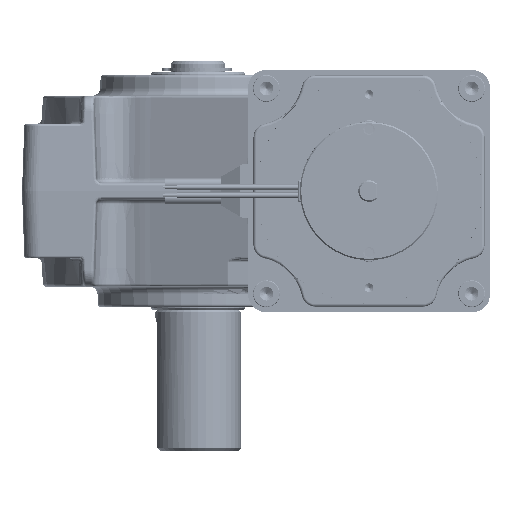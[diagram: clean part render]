
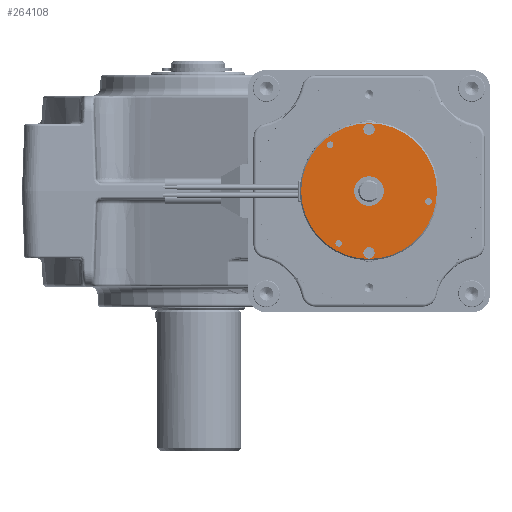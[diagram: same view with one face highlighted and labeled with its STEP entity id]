
A CAD part, left-side view. The second image highlights one B-rep face of the part: STEP entity #264108.
In plain terms, the highlighted planar face has unit normal (-1, 0, 0).
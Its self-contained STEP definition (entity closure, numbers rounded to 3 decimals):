
#209 = EDGE_LOOP ( 'NONE', ( #30297, #177760 ) ) ;
#939 = VERTEX_POINT ( 'NONE', #222678 ) ;
#4736 = EDGE_CURVE ( 'NONE', #201803, #11214, #54795, .T. ) ;
#5601 = AXIS2_PLACEMENT_3D ( 'NONE', #128049, #180443, #177367 ) ;
#6062 = DIRECTION ( 'NONE',  ( 0., -0.5, 0.866 ) ) ;
#11214 = VERTEX_POINT ( 'NONE', #83652 ) ;
#12587 = ORIENTED_EDGE ( 'NONE', *, *, #285040, .T. ) ;
#14232 = DIRECTION ( 'NONE',  ( 0., -0.5, 0.866 ) ) ;
#18291 = EDGE_LOOP ( 'NONE', ( #246786, #198364 ) ) ;
#21809 = ORIENTED_EDGE ( 'NONE', *, *, #243792, .T. ) ;
#30297 = ORIENTED_EDGE ( 'NONE', *, *, #230292, .T. ) ;
#31659 = CARTESIAN_POINT ( 'NONE',  ( -340.959, -28.091, 37.402 ) ) ;
#32804 = CARTESIAN_POINT ( 'NONE',  ( -340.959, -40.716, 59.269 ) ) ;
#32810 = CIRCLE ( 'NONE', #119446, 2.1 ) ;
#34466 = EDGE_LOOP ( 'NONE', ( #257857, #251469 ) ) ;
#34608 = AXIS2_PLACEMENT_3D ( 'NONE', #125094, #290637, #191922 ) ;
#34918 = ORIENTED_EDGE ( 'NONE', *, *, #231136, .T. ) ;
#42314 = CIRCLE ( 'NONE', #205056, 1.23 ) ;
#44274 = CARTESIAN_POINT ( 'NONE',  ( -340.959, -28.091, 60.402 ) ) ;
#46368 = DIRECTION ( 'NONE',  ( 0., -0.5, 0.866 ) ) ;
#47332 = AXIS2_PLACEMENT_3D ( 'NONE', #74561, #171707, #50677 ) ;
#49225 = CIRCLE ( 'NONE', #171264, 1.23 ) ;
#49955 = CIRCLE ( 'NONE', #121193, 1.23 ) ;
#50141 = CARTESIAN_POINT ( 'NONE',  ( -340.959, -14.243, 55.702 ) ) ;
#50656 = PLANE ( 'NONE',  #115286 ) ;
#50677 = DIRECTION ( 'NONE',  ( 0., -0.5, 0.866 ) ) ;
#54795 = CIRCLE ( 'NONE', #293731, 2.1 ) ;
#61772 = CIRCLE ( 'NONE', #255051, 1.23 ) ;
#61942 = DIRECTION ( 'NONE',  ( 0., -0.5, 0.866 ) ) ;
#62315 = VERTEX_POINT ( 'NONE', #172359 ) ;
#64759 = DIRECTION ( 'NONE',  ( 1., 0., 0. ) ) ;
#69551 = AXIS2_PLACEMENT_3D ( 'NONE', #129483, #154947, #177277 ) ;
#69770 = FACE_OUTER_BOUND ( 'NONE', #195970, .T. ) ;
#72084 = CIRCLE ( 'NONE', #128134, 25.25 ) ;
#72584 = DIRECTION ( 'NONE',  ( 1., 0., 0. ) ) ;
#72908 = FACE_BOUND ( 'NONE', #176402, .T. ) ;
#74561 = CARTESIAN_POINT ( 'NONE',  ( -340.959, -28.091, 37.402 ) ) ;
#75569 = DIRECTION ( 'NONE',  ( 1., 0., 0. ) ) ;
#81309 = EDGE_LOOP ( 'NONE', ( #12587, #34918 ) ) ;
#81610 = EDGE_CURVE ( 'NONE', #160580, #273089, #242523, .T. ) ;
#83652 = CARTESIAN_POINT ( 'NONE',  ( -340.959, -27.041, 58.583 ) ) ;
#83969 = CARTESIAN_POINT ( 'NONE',  ( -340.959, -50.249, 33.495 ) ) ;
#84310 = CARTESIAN_POINT ( 'NONE',  ( -340.959, -13.628, 54.638 ) ) ;
#86323 = VERTEX_POINT ( 'NONE', #268532 ) ;
#86517 = VERTEX_POINT ( 'NONE', #161563 ) ;
#93766 = FACE_BOUND ( 'NONE', #280735, .T. ) ;
#93781 = VERTEX_POINT ( 'NONE', #225920 ) ;
#94993 = AXIS2_PLACEMENT_3D ( 'NONE', #31659, #305444, #158930 ) ;
#99610 = CIRCLE ( 'NONE', #308265, 5.5 ) ;
#104797 = CARTESIAN_POINT ( 'NONE',  ( -340.959, -30.841, 42.165 ) ) ;
#107801 = CARTESIAN_POINT ( 'NONE',  ( -340.959, -17.455, 18.981 ) ) ;
#114552 = VERTEX_POINT ( 'NONE', #32804 ) ;
#115286 = AXIS2_PLACEMENT_3D ( 'NONE', #104797, #249549, #6062 ) ;
#115831 = CARTESIAN_POINT ( 'NONE',  ( -340.959, -28.091, 37.402 ) ) ;
#119244 = FACE_BOUND ( 'NONE', #81309, .T. ) ;
#119446 = AXIS2_PLACEMENT_3D ( 'NONE', #152623, #222538, #315165 ) ;
#119964 = CARTESIAN_POINT ( 'NONE',  ( -340.959, -50.864, 34.559 ) ) ;
#121193 = AXIS2_PLACEMENT_3D ( 'NONE', #83969, #64759, #181133 ) ;
#123126 = VERTEX_POINT ( 'NONE', #50141 ) ;
#124627 = ORIENTED_EDGE ( 'NONE', *, *, #288849, .T. ) ;
#125094 = CARTESIAN_POINT ( 'NONE',  ( -340.959, -28.091, 14.402 ) ) ;
#125659 = EDGE_CURVE ( 'NONE', #11214, #201803, #212809, .T. ) ;
#128049 = CARTESIAN_POINT ( 'NONE',  ( -340.959, -16.841, 17.916 ) ) ;
#128134 = AXIS2_PLACEMENT_3D ( 'NONE', #232220, #280153, #14232 ) ;
#129169 = EDGE_CURVE ( 'NONE', #123126, #143378, #61772, .T. ) ;
#129483 = CARTESIAN_POINT ( 'NONE',  ( -340.959, -16.841, 17.916 ) ) ;
#141979 = CARTESIAN_POINT ( 'NONE',  ( -340.959, -13.013, 53.573 ) ) ;
#142924 = CIRCLE ( 'NONE', #5601, 1.23 ) ;
#143378 = VERTEX_POINT ( 'NONE', #141979 ) ;
#152623 = CARTESIAN_POINT ( 'NONE',  ( -340.959, -28.091, 14.402 ) ) ;
#154947 = DIRECTION ( 'NONE',  ( 1., 0., 0. ) ) ;
#155532 = EDGE_CURVE ( 'NONE', #114552, #86323, #72084, .T. ) ;
#157592 = DIRECTION ( 'NONE',  ( 1., 0., 0. ) ) ;
#157772 = CARTESIAN_POINT ( 'NONE',  ( -340.959, -16.226, 16.851 ) ) ;
#158930 = DIRECTION ( 'NONE',  ( 0., -0.5, 0.866 ) ) ;
#160580 = VERTEX_POINT ( 'NONE', #107801 ) ;
#161563 = CARTESIAN_POINT ( 'NONE',  ( -340.959, -29.141, 16.22 ) ) ;
#163171 = EDGE_CURVE ( 'NONE', #291364, #93781, #99610, .T. ) ;
#167410 = CARTESIAN_POINT ( 'NONE',  ( -340.959, -50.249, 33.495 ) ) ;
#171264 = AXIS2_PLACEMENT_3D ( 'NONE', #167410, #242105, #46368 ) ;
#171707 = DIRECTION ( 'NONE',  ( 1., 0., 0. ) ) ;
#172359 = CARTESIAN_POINT ( 'NONE',  ( -340.959, -49.634, 32.43 ) ) ;
#173960 = CARTESIAN_POINT ( 'NONE',  ( -340.959, -29.141, 62.22 ) ) ;
#175994 = ORIENTED_EDGE ( 'NONE', *, *, #125659, .T. ) ;
#176402 = EDGE_LOOP ( 'NONE', ( #224052, #175994 ) ) ;
#177265 = EDGE_CURVE ( 'NONE', #62315, #201637, #49955, .T. ) ;
#177277 = DIRECTION ( 'NONE',  ( 0., -0.5, 0.866 ) ) ;
#177367 = DIRECTION ( 'NONE',  ( 0., -0.5, 0.866 ) ) ;
#177760 = ORIENTED_EDGE ( 'NONE', *, *, #163171, .T. ) ;
#180443 = DIRECTION ( 'NONE',  ( 1., 0., 0. ) ) ;
#181133 = DIRECTION ( 'NONE',  ( 0., -0.5, 0.866 ) ) ;
#187020 = CIRCLE ( 'NONE', #34608, 2.1 ) ;
#190813 = FACE_BOUND ( 'NONE', #18291, .T. ) ;
#191922 = DIRECTION ( 'NONE',  ( 0., -0.5, 0.866 ) ) ;
#192421 = AXIS2_PLACEMENT_3D ( 'NONE', #44274, #238481, #214573 ) ;
#192893 = CARTESIAN_POINT ( 'NONE',  ( -340.959, -25.341, 32.639 ) ) ;
#195970 = EDGE_LOOP ( 'NONE', ( #207616, #21809 ) ) ;
#198364 = ORIENTED_EDGE ( 'NONE', *, *, #315069, .T. ) ;
#201637 = VERTEX_POINT ( 'NONE', #119964 ) ;
#201803 = VERTEX_POINT ( 'NONE', #173960 ) ;
#205056 = AXIS2_PLACEMENT_3D ( 'NONE', #84310, #157592, #61942 ) ;
#207616 = ORIENTED_EDGE ( 'NONE', *, *, #155532, .T. ) ;
#212801 = DIRECTION ( 'NONE',  ( 1., 0., 0. ) ) ;
#212809 = CIRCLE ( 'NONE', #192421, 2.1 ) ;
#214573 = DIRECTION ( 'NONE',  ( 0., -0.5, 0.866 ) ) ;
#219008 = CARTESIAN_POINT ( 'NONE',  ( -340.959, -28.091, 60.402 ) ) ;
#219734 = ORIENTED_EDGE ( 'NONE', *, *, #177265, .T. ) ;
#220884 = FACE_BOUND ( 'NONE', #34466, .T. ) ;
#221865 = CIRCLE ( 'NONE', #94993, 25.25 ) ;
#222538 = DIRECTION ( 'NONE',  ( 1., 0., 0. ) ) ;
#222678 = CARTESIAN_POINT ( 'NONE',  ( -340.959, -27.041, 12.583 ) ) ;
#224052 = ORIENTED_EDGE ( 'NONE', *, *, #4736, .T. ) ;
#225054 = DIRECTION ( 'NONE',  ( 0., -0.5, 0.866 ) ) ;
#225920 = CARTESIAN_POINT ( 'NONE',  ( -340.959, -30.841, 42.165 ) ) ;
#229985 = EDGE_CURVE ( 'NONE', #143378, #123126, #42314, .T. ) ;
#230292 = EDGE_CURVE ( 'NONE', #93781, #291364, #306711, .T. ) ;
#231136 = EDGE_CURVE ( 'NONE', #939, #86517, #32810, .T. ) ;
#232220 = CARTESIAN_POINT ( 'NONE',  ( -340.959, -28.091, 37.402 ) ) ;
#238481 = DIRECTION ( 'NONE',  ( 1., 0., 0. ) ) ;
#242105 = DIRECTION ( 'NONE',  ( 1., 0., 0. ) ) ;
#242523 = CIRCLE ( 'NONE', #69551, 1.23 ) ;
#243792 = EDGE_CURVE ( 'NONE', #86323, #114552, #221865, .T. ) ;
#246786 = ORIENTED_EDGE ( 'NONE', *, *, #81610, .T. ) ;
#249549 = DIRECTION ( 'NONE',  ( 1., 0., 0. ) ) ;
#251469 = ORIENTED_EDGE ( 'NONE', *, *, #229985, .T. ) ;
#255051 = AXIS2_PLACEMENT_3D ( 'NONE', #298475, #75569, #225054 ) ;
#257857 = ORIENTED_EDGE ( 'NONE', *, *, #129169, .T. ) ;
#260696 = DIRECTION ( 'NONE',  ( 0., -0.5, 0.866 ) ) ;
#264108 = ADVANCED_FACE ( 'NONE', ( #315089, #190813, #93766, #220884, #69770, #72908, #119244 ), #50656, .F. ) ;
#266937 = DIRECTION ( 'NONE',  ( 0., -0.5, 0.866 ) ) ;
#268532 = CARTESIAN_POINT ( 'NONE',  ( -340.959, -15.466, 15.535 ) ) ;
#273089 = VERTEX_POINT ( 'NONE', #157772 ) ;
#280153 = DIRECTION ( 'NONE',  ( -1., 0., 0. ) ) ;
#280735 = EDGE_LOOP ( 'NONE', ( #124627, #219734 ) ) ;
#285040 = EDGE_CURVE ( 'NONE', #86517, #939, #187020, .T. ) ;
#288849 = EDGE_CURVE ( 'NONE', #201637, #62315, #49225, .T. ) ;
#290637 = DIRECTION ( 'NONE',  ( 1., 0., 0. ) ) ;
#291364 = VERTEX_POINT ( 'NONE', #192893 ) ;
#293731 = AXIS2_PLACEMENT_3D ( 'NONE', #219008, #72584, #266937 ) ;
#298475 = CARTESIAN_POINT ( 'NONE',  ( -340.959, -13.628, 54.638 ) ) ;
#305444 = DIRECTION ( 'NONE',  ( -1., 0., 0. ) ) ;
#306711 = CIRCLE ( 'NONE', #47332, 5.5 ) ;
#308265 = AXIS2_PLACEMENT_3D ( 'NONE', #115831, #212801, #260696 ) ;
#315069 = EDGE_CURVE ( 'NONE', #273089, #160580, #142924, .T. ) ;
#315089 = FACE_BOUND ( 'NONE', #209, .T. ) ;
#315165 = DIRECTION ( 'NONE',  ( 0., -0.5, 0.866 ) ) ;
